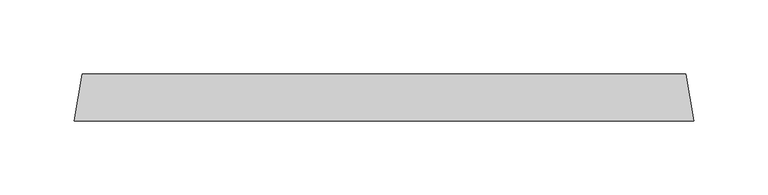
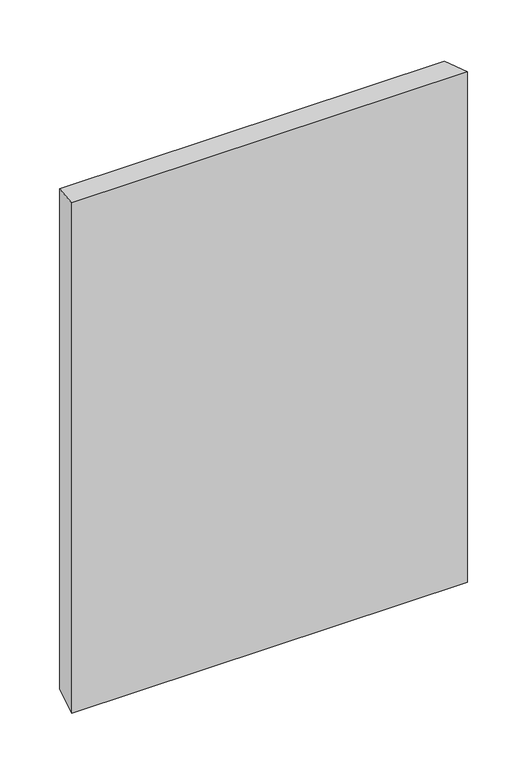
"""IFC4 building model written with IfcOpenShell, lengths in millimetres: proxy geometry, GRADIENT^TABLE 7_PYRAMID BASES-CTR BASE BOTTOM."""

from ifc_helpers import new_model, si_unit, origin, place, context, project, spatial, faceted_brep, source, transform, mapped, element, save


def generic_models_97a5e2a9(model_context):
    return source(origin(), model_context, "Body", "Brep", [
        faceted_brep([(1929.9422586, -679.45, -1041.8577414), (1924.343877, -711.2, -1047.456123), (1924.343877, -711.2, -476.543877), (1929.9422586, -679.45, -482.1422586), (2337.2577414, -679.45, -1041.8577414), (2337.2577414, -679.45, -482.1422586), (2342.856123, -711.2, -1047.456123), (2342.856123, -711.2, -476.543877)], [[[0, 1, 2, 3]], [[4, 0, 3, 5]], [[6, 4, 5, 7]], [[1, 6, 7, 2]], [[5, 3, 2, 7]], [[0, 4, 6, 1]]]),
    ])


if __name__ == "__main__":
    model = new_model("IFC4")
    model_context = context("Model", 3, world=origin())
    ifc_project = project(units=[si_unit("LENGTHUNIT", "METRE", prefix="MILLI")], contexts=[model_context])
    site = spatial("IfcSite", under=ifc_project)
    building = spatial("IfcBuilding", under=site)
    placement = place(None, origin())
    generic_models_shape = generic_models_97a5e2a9(model_context)
    element("IfcBuildingElementProxy", 1, Name="GRADIENT^TABLE 7_PYRAMID BASES-CTR BASE BOTTOM", ObjectType="GRADIENT^TABLE 7_PYRAMID BASES-CTR BASE BOTTOM", at=placement, inside=building, context=model_context, shape_type="MappedRepresentation", body=[
        mapped(generic_models_shape, transform((0.0, 0.0, 0.0), x_axis=(1.0, 0.0, 0.0), y_axis=(0.0, 1.0, 0.0), z_axis=(0.0, 0.0, 1.0))),
    ])
    save(model, "model.ifc")
